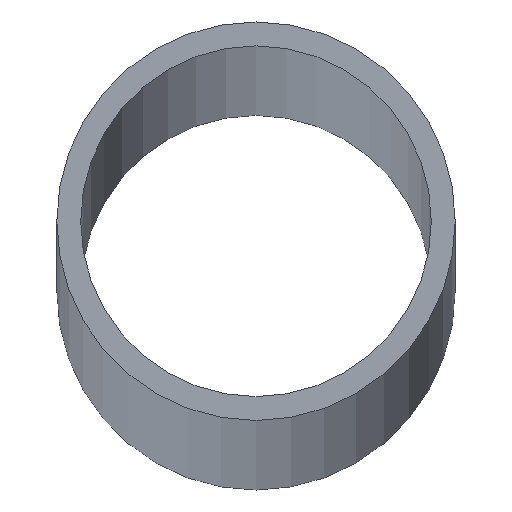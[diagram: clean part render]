
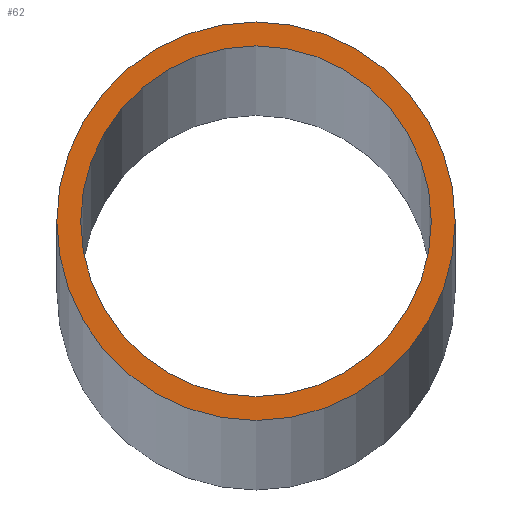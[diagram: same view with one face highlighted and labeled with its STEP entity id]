
A CAD part, top view. The second image highlights one B-rep face of the part: STEP entity #62.
In plain terms, the highlighted planar face has unit normal (0, 0, 1).
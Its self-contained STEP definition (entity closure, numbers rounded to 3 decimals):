
#15=PLANE('',#90);
#19=FACE_BOUND('',#31,.T.);
#23=FACE_OUTER_BOUND('',#30,.T.);
#30=EDGE_LOOP('',(#50));
#31=EDGE_LOOP('',(#51));
#32=CIRCLE('',#84,22.);
#34=CIRCLE('',#87,25.);
#36=VERTEX_POINT('',#111);
#38=VERTEX_POINT('',#116);
#40=EDGE_CURVE('',#36,#36,#32,.T.);
#42=EDGE_CURVE('',#38,#38,#34,.T.);
#50=ORIENTED_EDGE('',*,*,#42,.T.);
#51=ORIENTED_EDGE('',*,*,#40,.T.);
#62=ADVANCED_FACE('',(#23,#19),#15,.T.);
#84=AXIS2_PLACEMENT_3D('',#112,#95,#96);
#87=AXIS2_PLACEMENT_3D('',#117,#101,#102);
#90=AXIS2_PLACEMENT_3D('',#121,#107,#108);
#95=DIRECTION('center_axis',(0.,0.,-1.));
#96=DIRECTION('ref_axis',(-1.,0.,0.));
#101=DIRECTION('center_axis',(0.,0.,1.));
#102=DIRECTION('ref_axis',(-1.,0.,0.));
#107=DIRECTION('center_axis',(0.,0.,1.));
#108=DIRECTION('ref_axis',(1.,0.,0.));
#111=CARTESIAN_POINT('',(22.,0.,5000.));
#112=CARTESIAN_POINT('Origin',(0.,0.,5000.));
#116=CARTESIAN_POINT('',(25.,0.,5000.));
#117=CARTESIAN_POINT('Origin',(0.,0.,5000.));
#121=CARTESIAN_POINT('Origin',(0.,0.,5000.));
